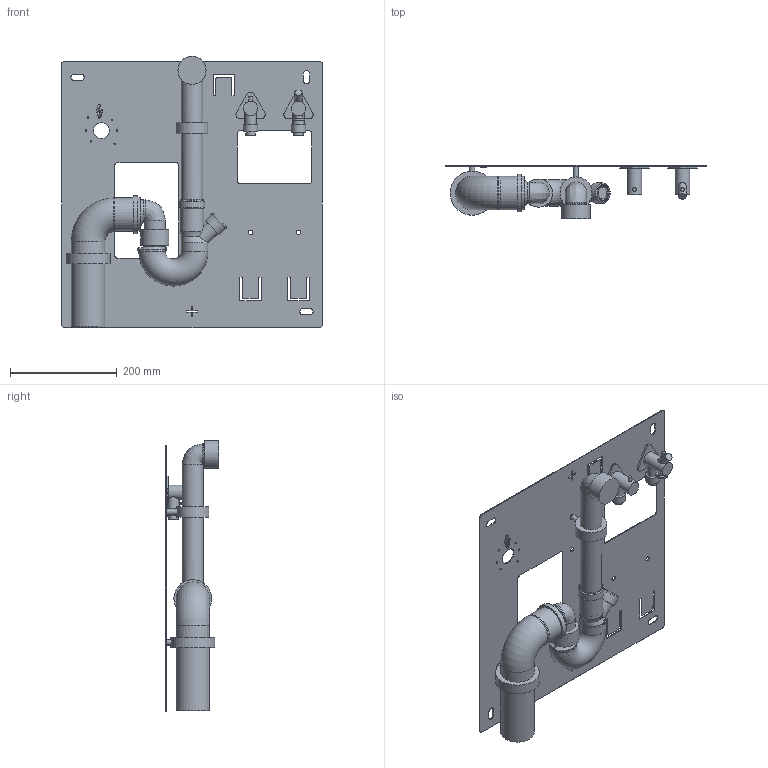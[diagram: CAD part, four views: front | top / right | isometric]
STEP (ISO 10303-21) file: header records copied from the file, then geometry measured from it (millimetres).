
FILE_DESCRIPTION(('STEP AP214'),'1');
FILE_NAME('NYFFix_7940R.STP','2025-09-02T13:28:48',(' '),(' '),'Spatial InterOp 3D',' ',' ');
FILE_SCHEMA(('AUTOMOTIVE_DESIGN { 1 0 10303 214 1 1 1 1 }'));
Length unit declared in the file: millimetre
Products named in the file (1): Torus
Bounding box: 490 x 100 x 509.28 mm (x, y, z)
Volume: 1016789.9 mm3; surface area: 825606.3 mm2
Topology: 20 solids, 20 shells, 442 faces, 1130 edges, 730 vertices
Faces by surface type: cylinder 203, plane 184, cone 21, torus 19, bspline 15
Full cylindrical faces by diameter (mm): 3 x6, 5.1 x6, 7 x2, 8.5 x5, 10 x2, 13.867 x1, 14 x1, 17.5 x2, 21 x2, 22 x1, 22.622 x1, 26.818 x2, 27 x2, 30 x2, 30.2 x2, 33.249 x2, 36 x3, 36.1 x2, 38 x1, 39 x1, 40 x5, 40.1 x2, 40.5 x1, 40.625 x1, 44.5 x6, 46 x2, 48 x2, 48.318 x1, 50 x2, 52 x1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
Entity records: 15986 total; most frequent: CARTESIAN_POINT 4041, DIRECTION 2215, ORIENTED_EDGE 1944, EDGE_CURVE 972, AXIS2_PLACEMENT_3D 894, VERTEX_POINT 698, EDGE_LOOP 648, ADVANCED_FACE 442
